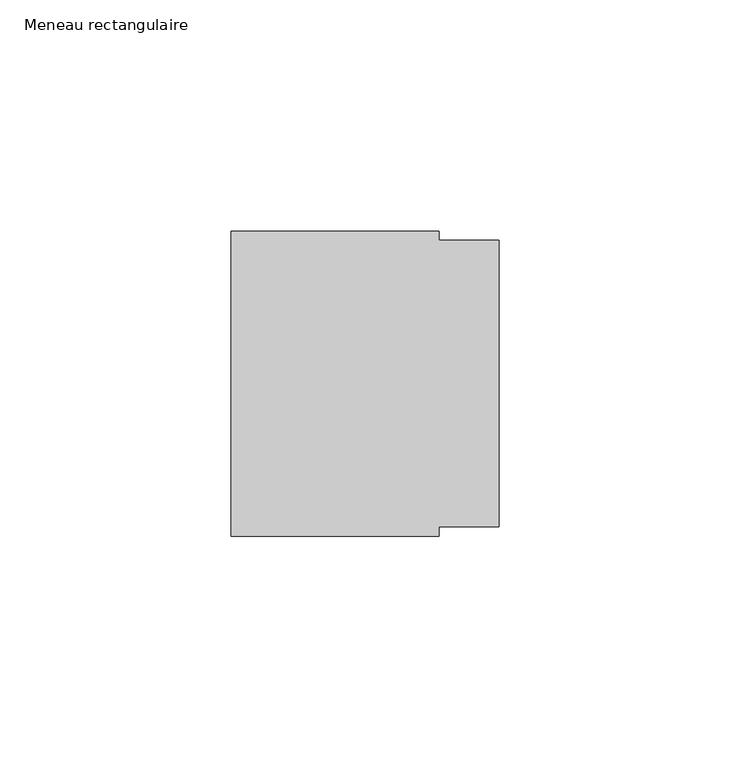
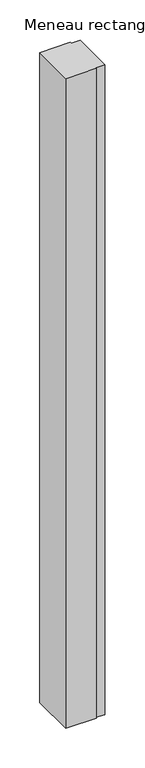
"""IFC4 building model written with IfcOpenShell, lengths in millimetres: member geometry, Meneau rectangulaire : LISSERIE_SOL 85-KLS00-P80-RE58XC."""

import ifcopenshell
import ifcopenshell.guid

model = None  # the IFC model being written
_history = None  # IfcOwnerHistory: only IFC2X3 demands one
_inside = {}  # id of a spatial element -> (the spatial element, [elements in it])
_under = {}  # id of a project, library or spatial element -> (it, [spatial elements below it])
_declared = {}  # id of a project -> (the project, [libraries it declares])
_typed = {}  # id of a type object -> (the type object, [elements of that type])
_made_of = {}  # id of a material, layer set ... -> (it, [elements and type objects made of it])


def new_model(schema):
    """Start an empty IFC model of exactly this schema.

    Asked for "IFC4X3", IfcOpenShell would pick the latest addendum, in which some entities
    have other attributes; the version numbers below select the first issue.
    IFC2X3 requires an IfcOwnerHistory on every rooted entity: one is made here for all.
    """
    global model, _history
    if schema == "IFC4X3":
        model = ifcopenshell.file(schema_version=(4, 3, 0, 0))
    else:
        model = ifcopenshell.file(schema=schema)
    _inside.clear()
    _under.clear()
    _declared.clear()
    _typed.clear()
    _made_of.clear()
    _history = None
    if model.schema == "IFC2X3":
        org = make("IfcOrganization", Name="unknown")
        user = make(
            "IfcPersonAndOrganization",
            ThePerson=make("IfcPerson", FamilyName="unknown"),
            TheOrganization=org,
        )
        app = make(
            "IfcApplication",
            ApplicationDeveloper=org,
            Version="unknown",
            ApplicationFullName="unknown",
            ApplicationIdentifier="unknown",
        )
        _history = make(
            "IfcOwnerHistory",
            OwningUser=user,
            OwningApplication=app,
            ChangeAction="ADDED",
            CreationDate=0,
        )
    return model


def make(cls, **values):
    """One entity of the class cls with the attributes given. An attribute that is None is left unset."""
    return model.create_entity(
        cls, **{name: value for name, value in values.items() if value is not None}
    )


def rooted(cls, **values):
    """An entity with a GlobalId (a new one), such as an element, a storey or a relation."""
    return make(cls, GlobalId=ifcopenshell.guid.new(), OwnerHistory=_history, **values)


def si_unit(unit_type, name, prefix=None):
    """IfcSIUnit, for example si_unit("LENGTHUNIT", "METRE", prefix="MILLI")."""
    return make("IfcSIUnit", UnitType=unit_type, Prefix=prefix, Name=name)


def assignment(units):
    """IfcUnitAssignment: the units of a project."""
    return None if units is None else make("IfcUnitAssignment", Units=units)


def point(xyz):
    """IfcCartesianPoint."""
    return None if xyz is None else make("IfcCartesianPoint", Coordinates=xyz)


def direction(xyz):
    """IfcDirection."""
    return None if xyz is None else make("IfcDirection", DirectionRatios=xyz)


def frame(location, z_axis=None, x_axis=None):
    """IfcAxis2Placement3D, a coordinate frame: its origin and axes. An axis left out is left unset."""
    return make(
        "IfcAxis2Placement3D",
        Location=point(location),
        Axis=direction(z_axis),
        RefDirection=direction(x_axis),
    )


def origin():
    """The frame at (0, 0, 0) with its axes left unset."""
    return frame((0.0, 0.0, 0.0))


def place(relative_to, where):
    """IfcLocalPlacement: puts the frame where relative to a parent placement (None: the world)."""
    return make(
        "IfcLocalPlacement", PlacementRelTo=relative_to, RelativePlacement=where
    )


def context(
    kind, dimensions, precision=None, world=None, true_north=None, identifier=None
):
    """IfcGeometricRepresentationContext, for example the 3D "Model" context."""
    return make(
        "IfcGeometricRepresentationContext",
        ContextIdentifier=identifier,
        ContextType=kind,
        CoordinateSpaceDimension=dimensions,
        Precision=precision,
        WorldCoordinateSystem=world,
        TrueNorth=true_north,
    )


def project(units=None, contexts=None):
    """IfcProject with its units and contexts."""
    return rooted(
        "IfcProject",
        Name="project",
        RepresentationContexts=contexts,
        UnitsInContext=assignment(units),
    )


def spatial(cls, under=None, at=None, **own):
    """A site, building, storey or space (cls), placed at a placement, below another one or the project."""
    s = rooted(cls, ObjectPlacement=at, **own)
    if under is not None:
        _under.setdefault(under.id(), (under, []))[1].append(s)
    return s


def polyline(points):
    """IfcPolyline through the points."""
    return make("IfcPolyline", Points=[point(p) for p in points])


def outline(outer, holes=None, kind="AREA"):
    """IfcArbitraryClosedProfileDef: a profile drawn as a closed curve; with holes, ...WithVoids."""
    if holes is None:
        return make("IfcArbitraryClosedProfileDef", ProfileType=kind, OuterCurve=outer)
    return make(
        "IfcArbitraryProfileDefWithVoids",
        ProfileType=kind,
        OuterCurve=outer,
        InnerCurves=holes,
    )


def extrude(swept, where, along, depth):
    """IfcExtrudedAreaSolid: the profile swept, set in the frame where, extruded along a direction by depth."""
    return make(
        "IfcExtrudedAreaSolid",
        SweptArea=swept,
        Position=where,
        ExtrudedDirection=direction(along),
        Depth=depth,
    )


def shape(context_of_items, identifier, shape_type, items):
    """IfcShapeRepresentation: the items that make up one representation, for example the "Body"."""
    return make(
        "IfcShapeRepresentation",
        ContextOfItems=context_of_items,
        RepresentationIdentifier=identifier,
        RepresentationType=shape_type,
        Items=items,
    )


def source(mapping_origin, context_of_items, identifier, shape_type, items):
    """IfcRepresentationMap: a shape defined once, which mapped items show again and again."""
    return make(
        "IfcRepresentationMap",
        MappingOrigin=mapping_origin,
        MappedRepresentation=shape(context_of_items, identifier, shape_type, items),
    )


def transform(
    local_origin,
    x_axis=None,
    y_axis=None,
    z_axis=None,
    scale=None,
    scale2=None,
    scale3=None,
    uniform=True,
):
    """IfcCartesianTransformationOperator3D, or its non-uniform kind. x_axis, y_axis, z_axis: its Axis1, 2, 3."""
    if uniform:
        return make(
            "IfcCartesianTransformationOperator3D",
            Axis1=direction(x_axis),
            Axis2=direction(y_axis),
            LocalOrigin=point(local_origin),
            Scale=scale,
            Axis3=direction(z_axis),
        )
    return make(
        "IfcCartesianTransformationOperator3DnonUniform",
        Axis1=direction(x_axis),
        Axis2=direction(y_axis),
        LocalOrigin=point(local_origin),
        Scale=scale,
        Axis3=direction(z_axis),
        Scale2=scale2,
        Scale3=scale3,
    )


def mapped(mapping_source, mapping_target):
    """IfcMappedItem: shows the shape of a source again, moved by a transform."""
    return make(
        "IfcMappedItem", MappingSource=mapping_source, MappingTarget=mapping_target
    )


def made_of(thing, what):
    """Note that an element or type object is made of a material, layer set ...; save() writes the relation."""
    if what is not None:
        _made_of.setdefault(what.id(), (what, []))[1].append(thing)
    return thing


def element(
    cls,
    number,
    at=None,
    inside=None,
    cuts=None,
    type_object=None,
    material=None,
    context=None,
    identifier="Body",
    shape_type=None,
    held_by="IfcProductDefinitionShape",
    body=None,
    shapes=None,
    **own,
):
    """One element of the class cls, such as IfcWall. Its Tag is "e" and its number.

    at: its placement. inside: the storey or other place that contains it. cuts: it is an
    opening in that element (IfcRelVoidsElement). A single representation is given by context,
    identifier, shape_type and body (its items); several are given by shapes. held_by: the class
    of the entity that holds the representations. save() writes the other relations.
    """
    e = rooted(cls, Tag="e%d" % number, ObjectPlacement=at, **own)
    if body is not None:
        shapes = [shape(context, identifier, shape_type, body)]
    if shapes is not None:
        e.Representation = make(held_by, Representations=shapes)
    if inside is not None:
        _inside.setdefault(inside.id(), (inside, []))[1].append(e)
    if cuts is not None:
        rooted(
            "IfcRelVoidsElement", RelatingBuildingElement=cuts, RelatedOpeningElement=e
        )
    if type_object is not None:
        _typed.setdefault(type_object.id(), (type_object, []))[1].append(e)
    return made_of(e, material)


def aggregate(whole, parts):
    """IfcRelAggregates: a whole, such as a stair, and the parts it consists of."""
    return rooted("IfcRelAggregates", RelatingObject=whole, RelatedObjects=parts)


def save(model, path):
    """Write the relations noted so far, then the file.

    IfcRelAggregates (storeys below a building ...), IfcRelContainedInSpatialStructure (elements
    in a storey), IfcRelDefinesByType, IfcRelAssociatesMaterial and IfcRelDeclares: one each for
    every whole, place, type object, material and project.
    """
    for whole, parts in _under.values():
        aggregate(whole, parts)
    for where, things in _inside.values():
        rooted(
            "IfcRelContainedInSpatialStructure",
            RelatedElements=things,
            RelatingStructure=where,
        )
    for kind, things in _typed.values():
        rooted("IfcRelDefinesByType", RelatedObjects=things, RelatingType=kind)
    for what, things in _made_of.values():
        rooted("IfcRelAssociatesMaterial", RelatedObjects=things, RelatingMaterial=what)
    for by, libraries in _declared.values():
        rooted("IfcRelDeclares", RelatingContext=by, RelatedDefinitions=libraries)
    model.write(path)


def meneau_rectangulaire_c56fabd8(model_context):
    return source(origin(), model_context, "Body", "SweptSolid", [
        extrude(outline(polyline([(-13.0, 33.0), (-13.0, 31.0), (0.0, 31.0), (0.0, -31.0), (-13.0, -31.0), (-13.0, -33.0), (-58.0, -33.0), (-58.0, 33.0), (-13.0, 33.0)])), frame((0.0, 0.0, -1003.0), z_axis=(0.0, 0.0, 1.0), x_axis=(1.0, 0.0, 0.0)), (0.0, 0.0, 1.0), 1003.0),
    ])


if __name__ == "__main__":
    model = new_model("IFC4")
    model_context = context("Model", 3, world=origin())
    ifc_project = project(units=[si_unit("LENGTHUNIT", "METRE", prefix="MILLI")], contexts=[model_context])
    site = spatial("IfcSite", under=ifc_project)
    building = spatial("IfcBuilding", under=site)
    placement = place(None, origin())
    meneau_rectangulaire_shape = meneau_rectangulaire_c56fabd8(model_context)
    element("IfcMember", 1, ObjectType="Meneau rectangulaire : LISSERIE_SOL 85-KLS00-P80-RE58XC", at=placement, inside=building, context=model_context, shape_type="MappedRepresentation", body=[
        mapped(meneau_rectangulaire_shape, transform((0.0, 0.0, 0.0), x_axis=(1.0, 0.0, 0.0), y_axis=(0.0, 1.0, 0.0), z_axis=(0.0, 0.0, 1.0))),
    ])
    save(model, "model.ifc")
